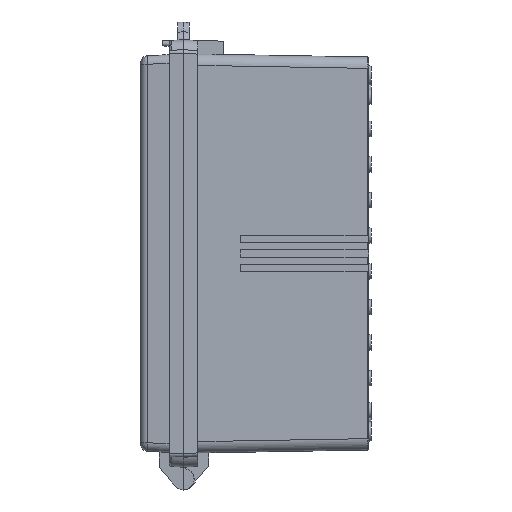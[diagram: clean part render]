
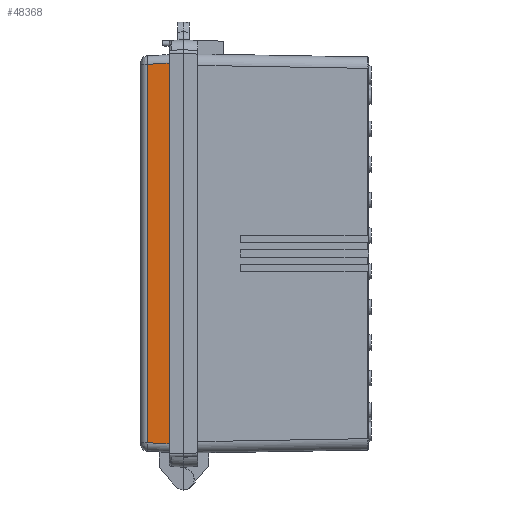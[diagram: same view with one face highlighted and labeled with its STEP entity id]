
A CAD part, left-side view. The second image highlights one B-rep face of the part: STEP entity #48368.
In plain terms, the highlighted planar face has unit normal (-0.999, 0.052, 0).
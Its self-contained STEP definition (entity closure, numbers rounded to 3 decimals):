
#413 = EDGE_LOOP ( 'NONE', ( #49285, #26668, #32678, #22176 ) ) ;
#5364 = CARTESIAN_POINT ( 'NONE',  ( -189.6, 10., 139.6 ) ) ;
#5914 = CARTESIAN_POINT ( 'NONE',  ( -188.854, 24.24, -132.862 ) ) ;
#8874 = DIRECTION ( 'NONE',  ( -0.999, 0.052, 0. ) ) ;
#10761 = CARTESIAN_POINT ( 'NONE',  ( -189.6, 10., -133.608 ) ) ;
#12293 = LINE ( 'NONE', #40158, #14877 ) ;
#12385 = FACE_OUTER_BOUND ( 'NONE', #413, .T. ) ;
#12999 = CARTESIAN_POINT ( 'NONE',  ( -188.8, 25.262, -132.808 ) ) ;
#14877 = VECTOR ( 'NONE', #42497, 1000. ) ;
#16871 = VERTEX_POINT ( 'NONE', #12999 ) ;
#17143 = CARTESIAN_POINT ( 'NONE',  ( -188.8, 25.262, 132.808 ) ) ;
#19556 = LINE ( 'NONE', #30528, #28403 ) ;
#19877 = CARTESIAN_POINT ( 'NONE',  ( -189.616, 9.688, 133.625 ) ) ;
#21479 = VERTEX_POINT ( 'NONE', #32485 ) ;
#21561 = VERTEX_POINT ( 'NONE', #10761 ) ;
#21675 = VECTOR ( 'NONE', #44114, 1000. ) ;
#22176 = ORIENTED_EDGE ( 'NONE', *, *, #45484, .F. ) ;
#23891 = AXIS2_PLACEMENT_3D ( 'NONE', #5364, #8874, #43071 ) ;
#25779 = EDGE_CURVE ( 'NONE', #21479, #48032, #35594, .T. ) ;
#25814 = VECTOR ( 'NONE', #35095, 1000. ) ;
#26668 = ORIENTED_EDGE ( 'NONE', *, *, #36885, .T. ) ;
#28403 = VECTOR ( 'NONE', #45514, 1000. ) ;
#30528 = CARTESIAN_POINT ( 'NONE',  ( -188.8, 25.262, 139.6 ) ) ;
#32485 = CARTESIAN_POINT ( 'NONE',  ( -189.6, 10., 133.608 ) ) ;
#32666 = EDGE_CURVE ( 'NONE', #16871, #21561, #36643, .T. ) ;
#32678 = ORIENTED_EDGE ( 'NONE', *, *, #32666, .T. ) ;
#35095 = DIRECTION ( 'NONE',  ( 0.052, 0.997, -0.052 ) ) ;
#35594 = LINE ( 'NONE', #19877, #25814 ) ;
#36643 = LINE ( 'NONE', #5914, #21675 ) ;
#36885 = EDGE_CURVE ( 'NONE', #48032, #16871, #19556, .T. ) ;
#39090 = PLANE ( 'NONE',  #23891 ) ;
#40158 = CARTESIAN_POINT ( 'NONE',  ( -189.6, 10., 139.6 ) ) ;
#42497 = DIRECTION ( 'NONE',  ( 0., 0., -1. ) ) ;
#43071 = DIRECTION ( 'NONE',  ( -0.052, -0.999, 0. ) ) ;
#44114 = DIRECTION ( 'NONE',  ( -0.052, -0.997, -0.052 ) ) ;
#45484 = EDGE_CURVE ( 'NONE', #21479, #21561, #12293, .T. ) ;
#45514 = DIRECTION ( 'NONE',  ( 0., 0., -1. ) ) ;
#48032 = VERTEX_POINT ( 'NONE', #17143 ) ;
#48368 = ADVANCED_FACE ( 'NONE', ( #12385 ), #39090, .T. ) ;
#49285 = ORIENTED_EDGE ( 'NONE', *, *, #25779, .T. ) ;
